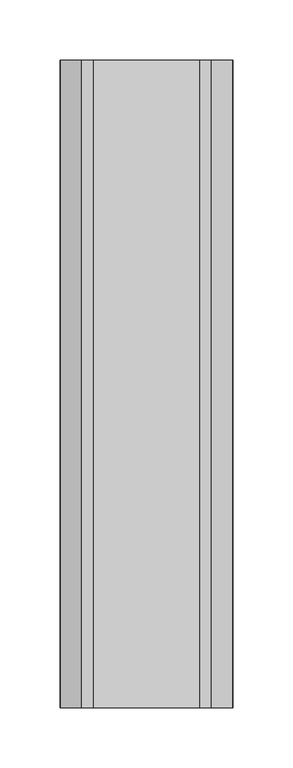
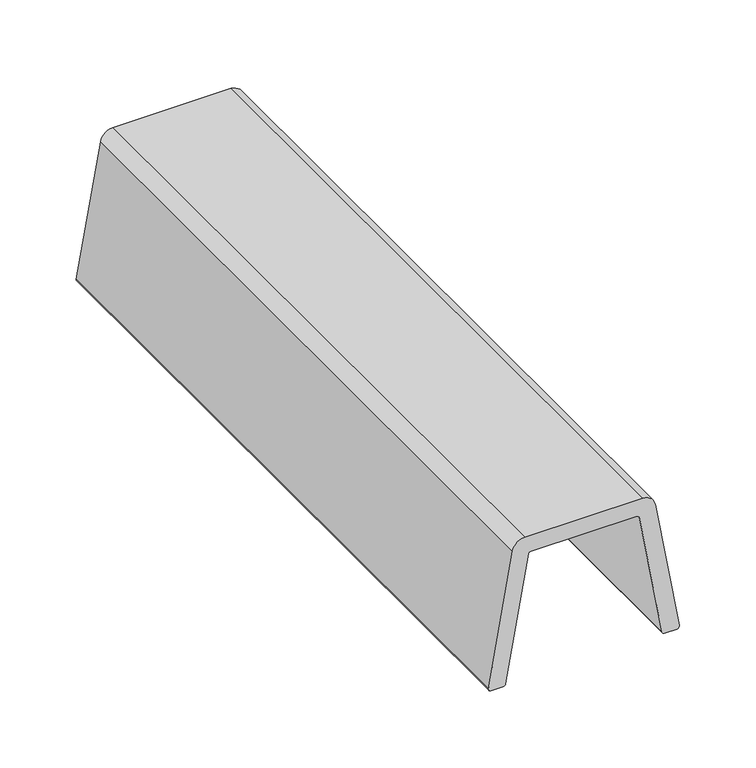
"""IFC4 building model written with IfcOpenShell, lengths in millimetres: flow terminal geometry, Deca_Shared_Coluna para Tanque_TQ.03 : CT.25_Branco Gelo GE17."""

from ifc_helpers import new_model, si_unit, frame, origin, place, context, project, spatial, polyline, circle_curve, source, transform, mapped, element, save
from ifc_brep_helpers import plane_surface, cylinder_surface, revolved_surface, advanced_brep


def flow_terminal_74339876(model_context):
    return source(origin(), model_context, "Body", "AdvancedBrep", [
        advanced_brep(
        [(-72.1310998, 0.0, 2.3472389), (-70.1614741, 0.0, 0.0), (-61.0226818, 0.0, 0.0), (-59.053056, 0.0, 1.6527612), (-41.840768, 0.0, 99.2851631), (-39.938627, 0.0, 100.9493189), (39.9491026, 0.0, 100.8717938), (41.8568764, 0.0, 99.193792), (59.053056, 0.0, 1.6527612), (61.0226818, 0.0, 0.0), (70.1614741, 0.0, 0.0), (72.1310998, 0.0, 2.3472389), (53.9480648, 0.0, 105.4859604), (44.6494676, 0.0, 113.6893824), (-44.6494676, 0.0, 113.6893824), (-53.9480648, 0.0, 105.4859605), (-72.1310998, 539.3188987, 2.3472389), (-53.9480648, 539.3188987, 105.4859605), (-44.6494676, 539.3188987, 113.6893824), (44.6494676, 539.3188987, 113.6893824), (53.9480648, 539.3188987, 105.4859605), (72.1310998, 539.3188987, 2.3472389), (70.1614741, 539.3188987, 0.0), (61.0226818, 539.3188987, 0.0), (59.053056, 539.3188987, 1.6527612), (41.8568764, 539.3188987, 99.193792), (39.9491026, 539.3188987, 100.8717938), (-39.9466302, 539.3188987, 100.9489727), (-41.840768, 539.3188987, 99.2851631), (-59.053056, 539.3188987, 1.6527612), (-61.0226818, 539.3188987, 0.0), (-70.1614741, 539.3188987, 0.0)],
        [
            (0, 1, circle_curve(frame((-70.1614741, 0.0, 2.0000001), z_axis=(0.0, -1.0, 0.0), x_axis=(1.0, 0.0, 0.0)), 2.0000001)),
            (1, 2),
            (2, 3, circle_curve(frame((-61.0226818, 0.0, 2.0000001), z_axis=(0.0, -1.0, 0.0), x_axis=(1.0, 0.0, 0.0)), 2.0000001)),
            (3, 4),
            (4, 5, circle_curve(frame((-39.8555209, 0.0, 98.9351703), z_axis=(0.0, 1.0, 0.0), x_axis=(1.0, 0.0, 0.0)), 2.0158624)),
            (5, 6, circle_curve(frame((-0.9123976, 0.0, -844.8842548), z_axis=(0.0, 1.0, 0.0), x_axis=(1.0, 0.0, 0.0)), 946.6383499)),
            (6, 7, circle_curve(frame((39.8617042, 0.0, 98.8489223), z_axis=(0.0, 1.0, 0.0), x_axis=(1.0, 0.0, 0.0)), 2.0247586)),
            (7, 8),
            (8, 9, circle_curve(frame((61.0226818, 0.0, 2.0000001), z_axis=(0.0, -1.0, 0.0), x_axis=(-1.0, 0.0, 0.0)), 2.0000001)),
            (9, 10),
            (10, 11, circle_curve(frame((70.1614741, 0.0, 2.0000001), z_axis=(0.0, -1.0, 0.0), x_axis=(-1.0, 0.0, 0.0)), 2.0000001)),
            (11, 12),
            (12, 13, circle_curve(frame((44.1573744, 0.0, 103.7598923), z_axis=(0.0, -1.0, 0.0), x_axis=(-1.0, 0.0, 0.0)), 9.9416764)),
            (13, 14, circle_curve(frame((0.0, 0.0, -787.250506), z_axis=(0.0, -1.0, 0.0), x_axis=(1.0, 0.0, 0.0)), 902.0455961)),
            (14, 15, circle_curve(frame((-44.1573744, 0.0, 103.7598923), z_axis=(0.0, -1.0, 0.0), x_axis=(1.0, 0.0, 0.0)), 9.9416764)),
            (15, 0),
            (16, 17),
            (17, 18, circle_curve(frame((-44.1573744, 539.3188987, 103.7598923), z_axis=(0.0, 1.0, 0.0), x_axis=(1.0, 0.0, 0.0)), 9.9416764)),
            (18, 19, circle_curve(frame((0.0, 539.3188987, -787.250506), z_axis=(0.0, 1.0, 0.0), x_axis=(1.0, 0.0, 0.0)), 902.0455961)),
            (19, 20, circle_curve(frame((44.1573744, 539.3188987, 103.7598923), z_axis=(0.0, 1.0, 0.0), x_axis=(-1.0, 0.0, 0.0)), 9.9416764)),
            (20, 21),
            (21, 22, circle_curve(frame((70.1614741, 539.3188987, 2.0000001), z_axis=(0.0, 1.0, 0.0), x_axis=(-1.0, 0.0, 0.0)), 2.0000001)),
            (22, 23),
            (23, 24, circle_curve(frame((61.0226818, 539.3188987, 2.0000001), z_axis=(0.0, 1.0, 0.0), x_axis=(-1.0, 0.0, 0.0)), 2.0000001)),
            (24, 25),
            (25, 26, circle_curve(frame((39.8617042, 539.3188987, 98.8489223), z_axis=(0.0, -1.0, 0.0), x_axis=(1.0, 0.0, 0.0)), 2.0247586)),
            (26, 27, circle_curve(frame((-0.9123976, 539.3188987, -844.8842548), z_axis=(0.0, -1.0, 0.0), x_axis=(1.0, 0.0, 0.0)), 946.6383499)),
            (27, 28, circle_curve(frame((-39.8555209, 539.3188987, 98.9351703), z_axis=(0.0, -1.0, 0.0), x_axis=(1.0, 0.0, 0.0)), 2.0158624)),
            (28, 29),
            (29, 30, circle_curve(frame((-61.0226818, 539.3188987, 2.0000001), z_axis=(0.0, 1.0, 0.0), x_axis=(1.0, 0.0, 0.0)), 2.0000001)),
            (30, 31),
            (31, 16, circle_curve(frame((-70.1614741, 539.3188987, 2.0000001), z_axis=(0.0, 1.0, 0.0), x_axis=(1.0, 0.0, 0.0)), 2.0000001)),
            (0, 16),
            (31, 1),
            (30, 2),
            (29, 3),
            (28, 4),
            (27, 5),
            (26, 6),
            (25, 7),
            (24, 8),
            (23, 9),
            (22, 10),
            (21, 11),
            (20, 12),
            (14, 18),
            (17, 15),
            (19, 13),
        ],
        [
            plane_surface(frame((-68.161474, 0.0, 2.0000001), z_axis=(0.0, -1.0, 0.0), x_axis=(0.0, 0.0, 1.0))),
            plane_surface(frame((-68.161474, 539.3188987, 2.0000001), z_axis=(0.0, 1.0, 0.0), x_axis=(0.0, 0.0, -1.0))),
            cylinder_surface(frame((-70.1614741, 539.3188987, 2.0000001), z_axis=(0.0, -1.0, 0.0), x_axis=(1.0, 0.0, 0.0)), 2.0000001),
            plane_surface(frame((-70.1614741, 0.0, 0.0), z_axis=(1.3152487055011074e-12, 0.0, -1.0), x_axis=(0.0, 1.0, 0.0))),
            cylinder_surface(frame((-61.0226818, 539.3188987, 2.0000001), z_axis=(0.0, -1.0, 0.0), x_axis=(1.0, 0.0, 0.0)), 2.0000001),
            plane_surface(frame((-59.053056, 0.0, 1.6527612), z_axis=(0.984812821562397, 0.0, -0.1736194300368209), x_axis=(0.0, 1.0, 0.0))),
            revolved_surface(polyline([(-37.8396585, 539.3188987, 98.9351703), (-37.8396585, 0.0, 98.9351703)]), (-39.8555209, 539.3188987, 98.9351703), (0.0, 1.0, 0.0)),
            revolved_surface(polyline([(945.7259523, 539.3188987, -844.8842548), (945.7259523, 0.0, -844.8842548)]), (-0.9123976, 539.3188987, -844.8842548), (0.0, 1.0, 0.0)),
            revolved_surface(polyline([(41.8864628, 539.3188987, 98.8489223), (41.8864628, 0.0, 98.8489223)]), (39.8617042, 539.3188987, 98.8489223), (0.0, 1.0, 0.0)),
            plane_surface(frame((41.8568764, 0.0, 99.193792), z_axis=(-0.9848128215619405, 0.0, -0.1736194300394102), x_axis=(0.0, 1.0, 0.0))),
            cylinder_surface(frame((61.0226818, 539.3188987, 2.0000001), z_axis=(0.0, -1.0, 0.0), x_axis=(-1.0, 0.0, 0.0)), 2.0000001),
            plane_surface(frame((61.0226818, 0.0, 0.0), z_axis=(-1.3354204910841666e-12, 0.0, -1.0), x_axis=(0.0, 1.0, 0.0))),
            cylinder_surface(frame((70.1614741, 539.3188987, 2.0000001), z_axis=(0.0, -1.0, 0.0), x_axis=(-1.0, 0.0, 0.0)), 2.0000001),
            plane_surface(frame((72.1310998, 0.0, 2.3472389), z_axis=(0.9848128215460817, 0.0, 0.1736194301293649), x_axis=(0.0, 1.0, 0.0))),
            cylinder_surface(frame((-44.1573744, 539.3188987, 103.7598923), z_axis=(0.0, -1.0, 0.0), x_axis=(1.0, 0.0, 0.0)), 9.9416764),
            plane_surface(frame((-53.9480648, 0.0, 105.4859605), z_axis=(-0.984812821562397, 0.0, 0.17361943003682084), x_axis=(0.0, 1.0, 0.0))),
            cylinder_surface(frame((44.1573744, 539.3188987, 103.7598923), z_axis=(0.0, -1.0, 0.0), x_axis=(-1.0, 0.0, 0.0)), 9.9416764),
            cylinder_surface(frame((0.0, 539.3188987, -787.250506), z_axis=(0.0, -1.0, 0.0), x_axis=(1.0, 0.0, 0.0)), 902.0455961),
        ],
        [
            (0, [[1, 2, 3, 4, 5, 6, 7, 8, 9, 10, 11, 12, 13, 14, 15, 16]]),
            (1, [[17, 18, 19, 20, 21, 22, 23, 24, 25, 26, 27, 28, 29, 30, 31, 32]]),
            (2, [[-1, 33, -32, 34]]),
            (3, [[-2, -34, -31, 35]]),
            (4, [[-3, -35, -30, 36]]),
            (5, [[-4, -36, -29, 37]]),
            (6, [[-5, -37, -28, 38]]),
            (7, [[-6, -38, -27, 39]]),
            (8, [[-7, -39, -26, 40]]),
            (9, [[-8, -40, -25, 41]]),
            (10, [[-9, -41, -24, 42]]),
            (11, [[-10, -42, -23, 43]]),
            (12, [[-11, -43, -22, 44]]),
            (13, [[-12, -44, -21, 45]]),
            (14, [[-15, 46, -18, 47]]),
            (15, [[-16, -47, -17, -33]]),
            (16, [[-13, -45, -20, 48]]),
            (17, [[-14, -48, -19, -46]]),
        ],
    ),
    ])


if __name__ == "__main__":
    model = new_model("IFC4")
    model_context = context("Model", 3, world=origin())
    ifc_project = project(units=[si_unit("LENGTHUNIT", "METRE", prefix="MILLI")], contexts=[model_context])
    site = spatial("IfcSite", under=ifc_project)
    building = spatial("IfcBuilding", under=site)
    placement = place(None, origin())
    flow_terminal_shape = flow_terminal_74339876(model_context)
    element("IfcFlowTerminal", 1, ObjectType="Deca_Shared_Coluna para Tanque_TQ.03 : CT.25_Branco Gelo GE17", at=placement, inside=building, context=model_context, shape_type="MappedRepresentation", body=[
        mapped(flow_terminal_shape, transform((0.0, 0.0, 0.0), x_axis=(1.0, 0.0, 0.0), y_axis=(0.0, 1.0, 0.0), z_axis=(0.0, 0.0, 1.0))),
    ])
    save(model, "model.ifc")
